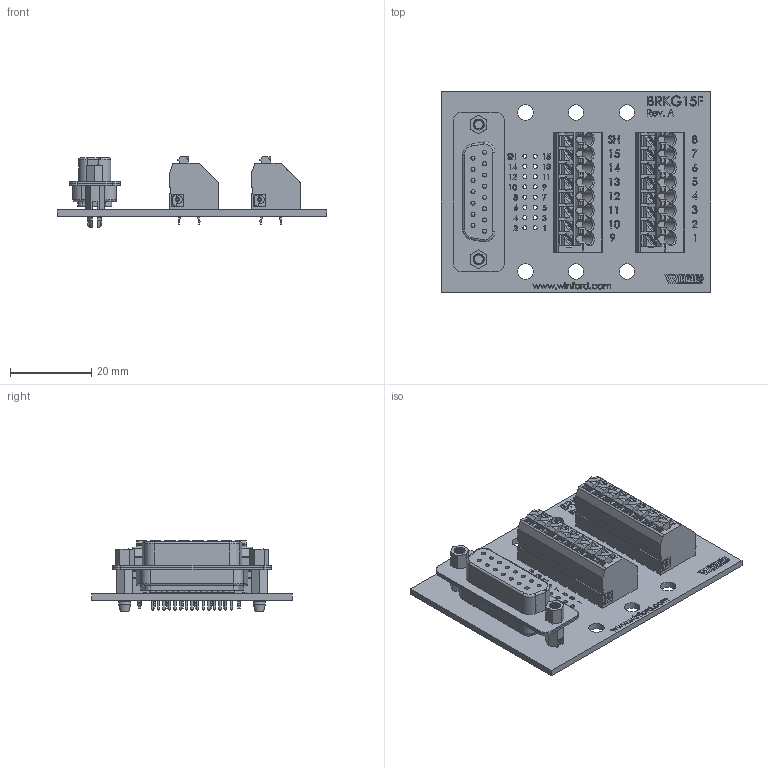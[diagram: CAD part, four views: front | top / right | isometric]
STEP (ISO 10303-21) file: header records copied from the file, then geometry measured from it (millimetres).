
FILE_DESCRIPTION (( 'STEP AP214' ), '1' );
FILE_NAME ('brkg15f_s_n-rev-a.step', '2017-08-02T02:33:47', ( '' ), ( '' ), 'SwSTEP 2.0', 'SolidWorks 2017', '' );
FILE_SCHEMA (( 'AUTOMOTIVE_DESIGN' ));
Length unit declared in the file: inch
Products named in the file (4): Female Straight 15 Pin; Spring Terminal 8 Position; BRKG15F Board; brkg15f_s_n-rev-a
Assembly tree (4 placements, depth 2):
  brkg15f_s_n-rev-a
    BRKG15F Board
    Female Straight 15 Pin
    Spring Terminal 8 Position  x2
Bounding box: 66.35 x 49.29 x 17.4 mm (x, y, z)
Volume: 14858 mm3; surface area: 16028.8 mm2
Topology: 40 solids, 40 shells, 2796 faces, 7361 edges, 4834 vertices
Faces by surface type: plane 1777, cylinder 503, bspline 414, cone 86, sphere 16
Full cylindrical faces by diameter (mm): 0.457 x2, 0.6 x15, 0.9 x30, 1 x47, 1.011 x30, 1.036 x16, 1.04 x8, 1.14 x8, 1.38 x2, 1.47 x2, 1.5 x15, 2.7 x2, 3 x18, 3.05 x4, 3.286 x2, 3.792 x6
Entity records: 112257 total; most frequent: CARTESIAN_POINT 36769, ORIENTED_EDGE 10594, DIRECTION 8539, EDGE_CURVE 5297, VERTEX_POINT 3621, LINE 3601, VECTOR 3601, EDGE_LOOP 2672
